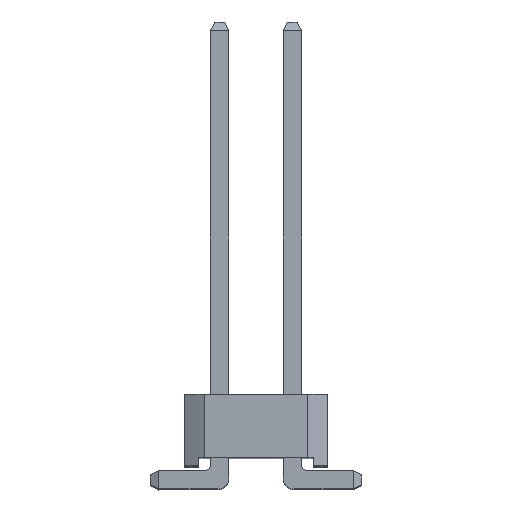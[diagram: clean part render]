
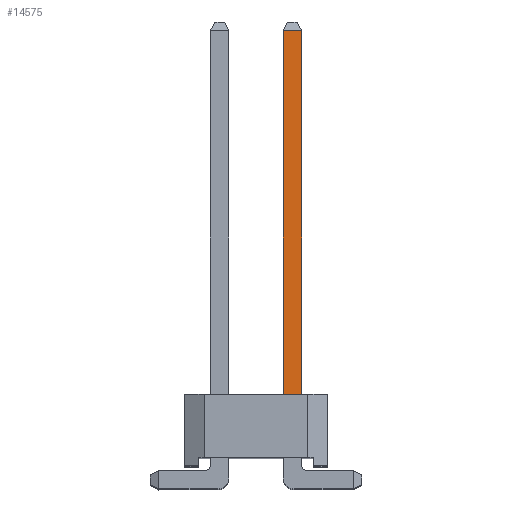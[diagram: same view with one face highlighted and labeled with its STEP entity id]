
A CAD part, top view. The second image highlights one B-rep face of the part: STEP entity #14575.
In plain terms, the highlighted planar face has unit normal (0, 0, 1).
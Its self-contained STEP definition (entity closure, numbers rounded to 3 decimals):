
#242 = EDGE_CURVE ( 'NONE', #855, #12272, #351, .T. ) ;
#351 = LINE ( 'NONE', #14756, #17938 ) ;
#855 = VERTEX_POINT ( 'NONE', #14399 ) ;
#1085 = EDGE_CURVE ( 'NONE', #1608, #11041, #13054, .T. ) ;
#1134 = VECTOR ( 'NONE', #13345, 1000. ) ;
#1608 = VERTEX_POINT ( 'NONE', #9165 ) ;
#2124 = CARTESIAN_POINT ( 'NONE',  ( -52.319, -30.86, 11.75 ) ) ;
#2206 = VECTOR ( 'NONE', #10172, 1000. ) ;
#2288 = ORIENTED_EDGE ( 'NONE', *, *, #8139, .T. ) ;
#3402 = EDGE_CURVE ( 'NONE', #11041, #12272, #8763, .T. ) ;
#3535 = LINE ( 'NONE', #2124, #1134 ) ;
#4059 = VECTOR ( 'NONE', #4090, 1000. ) ;
#4090 = DIRECTION ( 'NONE',  ( -1., 0., 0. ) ) ;
#4275 = CARTESIAN_POINT ( 'NONE',  ( -52.319, -29.955, 11.75 ) ) ;
#4519 = EDGE_LOOP ( 'NONE', ( #15385, #2288, #8369, #17585 ) ) ;
#8139 = EDGE_CURVE ( 'NONE', #1608, #855, #3535, .T. ) ;
#8165 = CARTESIAN_POINT ( 'NONE',  ( -52.959, -29.955, 11.75 ) ) ;
#8369 = ORIENTED_EDGE ( 'NONE', *, *, #242, .T. ) ;
#8763 = LINE ( 'NONE', #11490, #2206 ) ;
#9165 = CARTESIAN_POINT ( 'NONE',  ( -52.319, -29.955, 11.75 ) ) ;
#10172 = DIRECTION ( 'NONE',  ( 0., 1., 0. ) ) ;
#11041 = VERTEX_POINT ( 'NONE', #8165 ) ;
#11490 = CARTESIAN_POINT ( 'NONE',  ( -52.959, -30.86, 11.75 ) ) ;
#11651 = DIRECTION ( 'NONE',  ( -1., 0., 0. ) ) ;
#12272 = VERTEX_POINT ( 'NONE', #16691 ) ;
#12459 = PLANE ( 'NONE',  #14150 ) ;
#12556 = CARTESIAN_POINT ( 'NONE',  ( -52.319, -30.86, 11.75 ) ) ;
#13054 = LINE ( 'NONE', #4275, #4059 ) ;
#13345 = DIRECTION ( 'NONE',  ( 0., 1., 0. ) ) ;
#14150 = AXIS2_PLACEMENT_3D ( 'NONE', #12556, #16600, #15278 ) ;
#14399 = CARTESIAN_POINT ( 'NONE',  ( -52.319, -17.255, 11.75 ) ) ;
#14575 = ADVANCED_FACE ( 'NONE', ( #18012 ), #12459, .F. ) ;
#14756 = CARTESIAN_POINT ( 'NONE',  ( -51.984, -17.255, 11.75 ) ) ;
#15278 = DIRECTION ( 'NONE',  ( 0., -1., 0. ) ) ;
#15385 = ORIENTED_EDGE ( 'NONE', *, *, #1085, .F. ) ;
#16600 = DIRECTION ( 'NONE',  ( 0., 0., -1. ) ) ;
#16691 = CARTESIAN_POINT ( 'NONE',  ( -52.959, -17.255, 11.75 ) ) ;
#17585 = ORIENTED_EDGE ( 'NONE', *, *, #3402, .F. ) ;
#17938 = VECTOR ( 'NONE', #11651, 1000. ) ;
#18012 = FACE_OUTER_BOUND ( 'NONE', #4519, .T. ) ;
